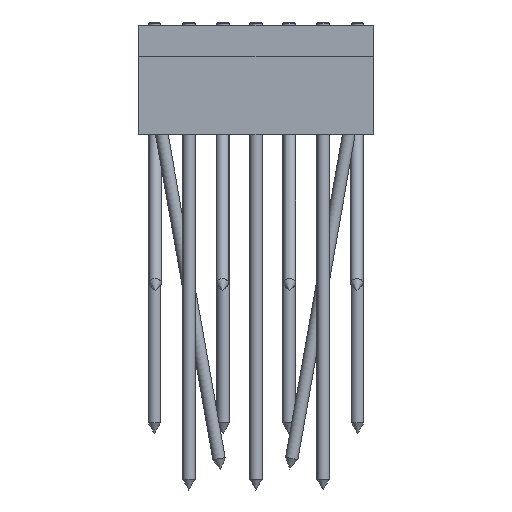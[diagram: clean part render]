
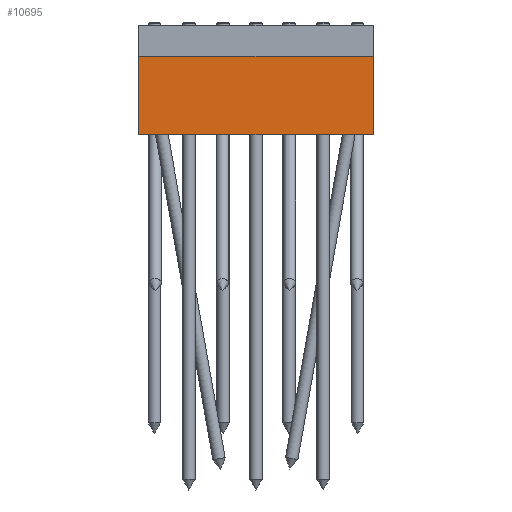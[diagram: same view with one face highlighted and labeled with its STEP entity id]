
A CAD part, front view. The second image highlights one B-rep face of the part: STEP entity #10695.
In plain terms, the highlighted planar face has unit normal (0, -1, 0) as drawn and (1, 0, 0) by its records, which use the part's own axes.
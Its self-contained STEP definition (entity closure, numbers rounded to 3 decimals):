
#593=LINE('',#19833,#917);
#594=LINE('',#19835,#918);
#595=LINE('',#19837,#919);
#596=LINE('',#19839,#920);
#917=VECTOR('',#16203,1000.);
#918=VECTOR('',#16206,1000.);
#919=VECTOR('',#16207,1000.);
#920=VECTOR('',#16208,1000.);
#1566=PLANE('',#13108);
#3844=ORIENTED_EDGE('',*,*,#5120,.F.);
#3845=ORIENTED_EDGE('',*,*,#5119,.F.);
#3846=ORIENTED_EDGE('',*,*,#5121,.T.);
#3847=ORIENTED_EDGE('',*,*,#5122,.T.);
#5119=EDGE_CURVE('',#6111,#6109,#593,.T.);
#5120=EDGE_CURVE('',#6109,#6112,#594,.T.);
#5121=EDGE_CURVE('',#6111,#6113,#595,.T.);
#5122=EDGE_CURVE('',#6113,#6112,#596,.T.);
#6109=VERTEX_POINT('',#19828);
#6111=VERTEX_POINT('',#19832);
#6112=VERTEX_POINT('',#19836);
#6113=VERTEX_POINT('',#19838);
#8095=EDGE_LOOP('',(#3844,#3845,#3846,#3847));
#9691=FACE_BOUND('',#8095,.T.);
#10695=ADVANCED_FACE('',(#9691),#1566,.T.);
#13108=AXIS2_PLACEMENT_3D('',#19834,#16204,#16205);
#16203=DIRECTION('',(0.,-1.,0.));
#16204=DIRECTION('',(1.,0.,0.));
#16205=DIRECTION('',(0.,0.,-1.));
#16206=DIRECTION('',(0.,0.,1.));
#16207=DIRECTION('',(0.,0.,1.));
#16208=DIRECTION('',(0.,-1.,0.));
#19828=CARTESIAN_POINT('',(200.,0.,0.));
#19832=CARTESIAN_POINT('',(200.,150.,0.));
#19833=CARTESIAN_POINT('',(200.,150.,0.));
#19834=CARTESIAN_POINT('',(200.,150.,0.));
#19835=CARTESIAN_POINT('',(200.,0.,0.));
#19836=CARTESIAN_POINT('',(200.,0.,50.));
#19837=CARTESIAN_POINT('',(200.,150.,0.));
#19838=CARTESIAN_POINT('',(200.,150.,50.));
#19839=CARTESIAN_POINT('',(200.,150.,50.));
